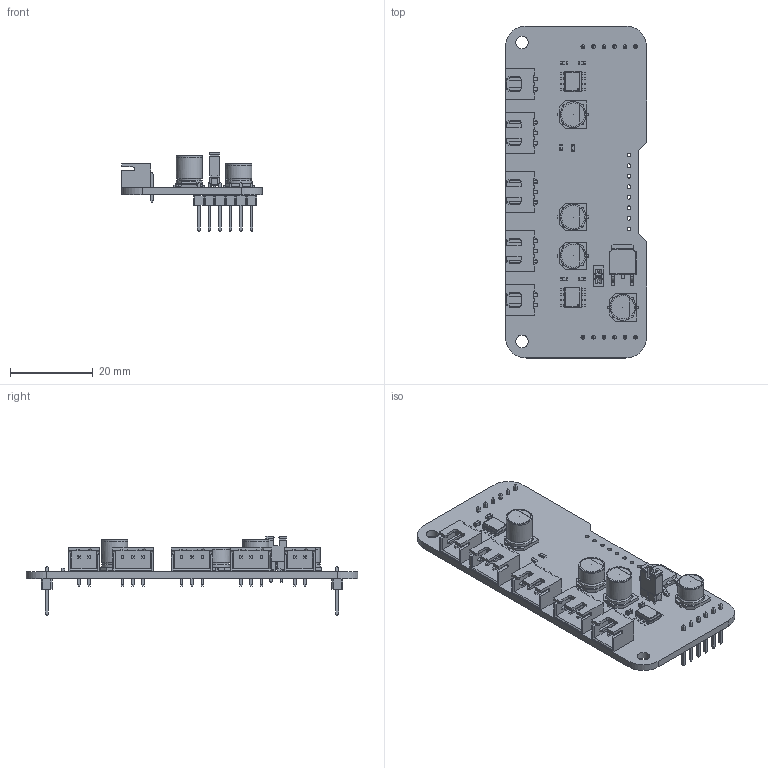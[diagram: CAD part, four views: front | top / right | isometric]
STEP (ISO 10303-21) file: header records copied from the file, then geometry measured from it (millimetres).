
FILE_DESCRIPTION(('Open CASCADE Model'),'2;1');
FILE_NAME('Open CASCADE Shape Model','2025-07-14T17:51:16',('Author'),( 'Open CASCADE'),'Open CASCADE STEP processor 7.5','Open CASCADE 7.5' ,'Unknown');
FILE_SCHEMA(('AUTOMOTIVE_DESIGN { 1 0 10303 214 1 1 1 1 }'));
Length unit declared in the file: millimetre
Products named in the file (57): PCB; Board; Open CASCADE STEP translator 7.5 3.1.1; SB1; jumper_akspt_g-grey; header02; R1; 0603; D1; 7206506704; Extruded; 7206506864; 7206507024; J5; CWF-3RB; UP1; User Library-DPAK-1; C8; D6.3_H5.8; Socle; Pins; Pins001; Sweep; Body004; Mark; C7; C6; Ceramic_Capacitor_0603_h32mil; Pin1; Pin2; CeramicBody; C5; D6.3_H7.7; U2; SOP-8; U1; P2; 6-Pin Header - Male - 2.54mm; P1; J4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
Assembly tree (67 placements, depth 4):
  PCB
    Board
      Open CASCADE STEP translator 7.5 3.1.1
    SB1
      jumper_akspt_g-grey
      header02
    R1
      0603
    D1
      7206506704  x2
        Extruded
      7206506864
        Extruded
      7206507024
        Extruded
    J5
      CWF-3RB
    UP1
      User Library-DPAK-1
    C8
      D6.3_H5.8
        Socle
        Pins
        Pins001
        Sweep
        Body004
        Mark
    C7
      D6.3_H5.8
        Socle
        Pins
        Pins001
        Sweep
        Body004
        Mark
    C6
      Ceramic_Capacitor_0603_h32mil
        Pin1
        Pin2
        CeramicBody
    C5
      D6.3_H7.7
        Socle
        Pins
        Pins001
        Sweep
        Body004
        Mark
    U2
      SOP-8
    U1
      SOP-8
    P2
      6-Pin Header - Male - 2.54mm
        6-Pin Header - Male - 2.54mm
    P1
      6-Pin Header - Male - 2.54mm
        6-Pin Header - Male - 2.54mm
    J4
      CWF-3RB
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Bounding box: 34 x 80 x 19.15 mm (x, y, z)
Volume: 7313.9 mm3; surface area: 11550.6 mm2
Topology: 74 solids, 74 shells, 2087 faces, 5155 edges, 3216 vertices
Faces by surface type: plane 1484, cylinder 339, bspline 188, sphere 52, revolution 16, torus 8
Full cylindrical faces by diameter (mm): 0.8 x16, 0.9 x35, 3 x2, 6.221 x16
Entity records: 37214 total; most frequent: CARTESIAN_POINT 8207, ORIENTED_EDGE 5224, DIRECTION 4972, EDGE_CURVE 2612, LINE 2092, VECTOR 2092, VERTEX_POINT 1652, AXIS2_PLACEMENT_3D 1436
